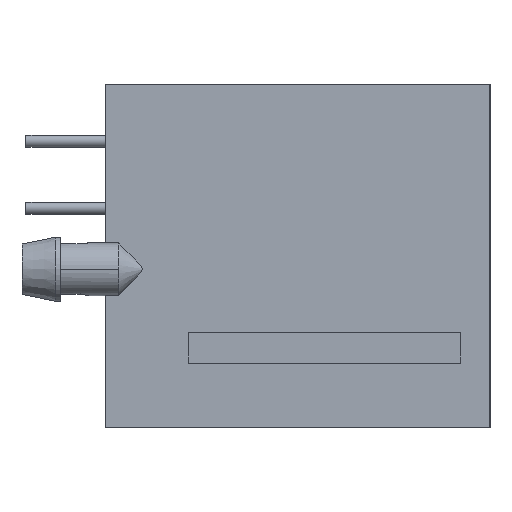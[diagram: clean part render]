
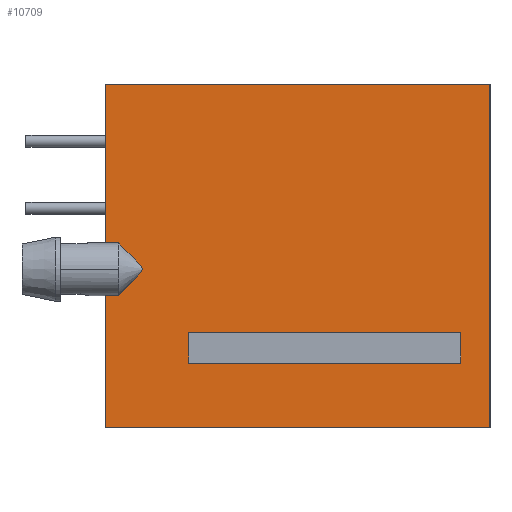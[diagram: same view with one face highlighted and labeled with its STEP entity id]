
A CAD part, left-side view. The second image highlights one B-rep face of the part: STEP entity #10709.
In plain terms, the highlighted planar face has unit normal (-1, 0, 0).
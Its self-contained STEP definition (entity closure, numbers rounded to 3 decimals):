
#3613=DIRECTION('',(0.,0.,1.));
#3614=VECTOR('',#3613,6.005);
#3615=CARTESIAN_POINT('',(-11.6,7.275,0.495));
#3616=LINE('',#3615,#3614);
#3617=DIRECTION('',(0.,0.,-1.));
#3618=VECTOR('',#3617,13.);
#3619=CARTESIAN_POINT('',(-11.6,-7.275,6.5));
#3620=LINE('',#3619,#3618);
#3621=DIRECTION('',(0.,1.,0.));
#3622=VECTOR('',#3621,14.55);
#3623=CARTESIAN_POINT('',(-11.6,-7.275,-6.5));
#3624=LINE('',#3623,#3622);
#3638=DIRECTION('',(0.,0.,-1.));
#3639=VECTOR('',#3638,5.005);
#3640=CARTESIAN_POINT('',(-11.6,7.275,-1.495));
#3641=LINE('',#3640,#3639);
#3642=DIRECTION('',(0.,1.,0.));
#3643=VECTOR('',#3642,0.5);
#3644=CARTESIAN_POINT('',(-11.6,6.775,-1.495));
#3645=LINE('',#3644,#3643);
#3646=DIRECTION('',(0.,-1.,0.));
#3647=VECTOR('',#3646,0.5);
#3648=CARTESIAN_POINT('',(-11.6,7.275,0.495));
#3649=LINE('',#3648,#3647);
#3668=CARTESIAN_POINT('',(-11.6,6.775,0.495));
#3669=CARTESIAN_POINT('',(-11.6,6.741,0.461));
#3670=CARTESIAN_POINT('',(-11.6,6.677,0.396));
#3671=CARTESIAN_POINT('',(-11.6,6.587,0.306));
#3672=CARTESIAN_POINT('',(-11.6,6.504,0.222));
#3673=CARTESIAN_POINT('',(-11.6,6.428,0.145));
#3674=CARTESIAN_POINT('',(-11.6,6.358,0.074));
#3675=CARTESIAN_POINT('',(-11.6,6.293,0.009));
#3676=CARTESIAN_POINT('',(-11.6,6.234,-0.052));
#3677=CARTESIAN_POINT('',(-11.6,6.181,-0.107));
#3678=CARTESIAN_POINT('',(-11.6,6.132,-0.157));
#3679=CARTESIAN_POINT('',(-11.6,6.088,
-0.204));
#3680=CARTESIAN_POINT('',(-11.6,6.048,
-0.246));
#3681=CARTESIAN_POINT('',(-11.6,6.013,
-0.284));
#3682=CARTESIAN_POINT('',(-11.6,5.982,
-0.318));
#3683=CARTESIAN_POINT('',(-11.6,5.956,
-0.349));
#3684=CARTESIAN_POINT('',(-11.6,5.933,
-0.377));
#3685=CARTESIAN_POINT('',(-11.6,5.914,
-0.403));
#3686=CARTESIAN_POINT('',(-11.6,5.898,
-0.427));
#3687=CARTESIAN_POINT('',(-11.6,5.885,
-0.452));
#3688=CARTESIAN_POINT('',(-11.6,5.877,
-0.477));
#3689=CARTESIAN_POINT('',(-11.6,5.875,
-0.493));
#3690=CARTESIAN_POINT('',(-11.6,5.875,
-0.5));
#3692=CARTESIAN_POINT('',(-11.6,5.875,
-0.5));
#3693=CARTESIAN_POINT('',(-11.6,5.875,
-0.507));
#3694=CARTESIAN_POINT('',(-11.6,5.877,
-0.522));
#3695=CARTESIAN_POINT('',(-11.6,5.885,
-0.547));
#3696=CARTESIAN_POINT('',(-11.6,5.898,
-0.573));
#3697=CARTESIAN_POINT('',(-11.6,5.914,
-0.598));
#3698=CARTESIAN_POINT('',(-11.6,5.933,
-0.623));
#3699=CARTESIAN_POINT('',(-11.6,5.956,
-0.651));
#3700=CARTESIAN_POINT('',(-11.6,5.982,
-0.682));
#3701=CARTESIAN_POINT('',(-11.6,6.013,
-0.716));
#3702=CARTESIAN_POINT('',(-11.6,6.048,
-0.754));
#3703=CARTESIAN_POINT('',(-11.6,6.087,
-0.796));
#3704=CARTESIAN_POINT('',(-11.6,6.131,-0.842));
#3705=CARTESIAN_POINT('',(-11.6,6.18,-0.893));
#3706=CARTESIAN_POINT('',(-11.6,6.234,-0.948));
#3707=CARTESIAN_POINT('',(-11.6,6.293,-1.008));
#3708=CARTESIAN_POINT('',(-11.6,6.357,-1.074));
#3709=CARTESIAN_POINT('',(-11.6,6.428,-1.145));
#3710=CARTESIAN_POINT('',(-11.6,6.504,-1.222));
#3711=CARTESIAN_POINT('',(-11.6,6.587,-1.306));
#3712=CARTESIAN_POINT('',(-11.6,6.677,-1.396));
#3713=CARTESIAN_POINT('',(-11.6,6.741,-1.461));
#3714=CARTESIAN_POINT('',(-11.6,6.775,-1.495));
#3928=DIRECTION('',(0.,1.,0.));
#3929=VECTOR('',#3928,14.55);
#3930=CARTESIAN_POINT('',(-11.6,-7.275,6.5));
#3931=LINE('',#3930,#3929);
#8028=DIRECTION('',(0.,0.,-1.));
#8029=VECTOR('',#8028,1.15);
#8030=CARTESIAN_POINT('',(-11.6,-6.175,-2.9));
#8031=LINE('',#8030,#8029);
#8032=DIRECTION('',(0.,1.,0.));
#8033=VECTOR('',#8032,10.3);
#8034=CARTESIAN_POINT('',(-11.6,-6.175,-4.05));
#8035=LINE('',#8034,#8033);
#8040=DIRECTION('',(0.,0.,1.));
#8041=VECTOR('',#8040,1.15);
#8042=CARTESIAN_POINT('',(-11.6,4.125,-4.05));
#8043=LINE('',#8042,#8041);
#8048=DIRECTION('',(0.,-1.,0.));
#8049=VECTOR('',#8048,10.3);
#8050=CARTESIAN_POINT('',(-11.6,4.125,-2.9));
#8051=LINE('',#8050,#8049);
#8680=CARTESIAN_POINT('',(-11.6,-7.275,-6.5));
#8681=CARTESIAN_POINT('',(-11.6,7.275,-6.5));
#8682=VERTEX_POINT('',#8680);
#8683=VERTEX_POINT('',#8681);
#8744=CARTESIAN_POINT('',(-11.6,7.275,0.495));
#8745=CARTESIAN_POINT('',(-11.6,7.275,6.5));
#8746=VERTEX_POINT('',#8744);
#8747=VERTEX_POINT('',#8745);
#8768=CARTESIAN_POINT('',(-11.6,-7.275,6.5));
#8769=VERTEX_POINT('',#8768);
#8770=VERTEX_POINT('',#3692);
#8771=VERTEX_POINT('',#3714);
#8772=CARTESIAN_POINT('',(-11.6,-6.175,-2.9));
#8773=CARTESIAN_POINT('',(-11.6,-6.175,-4.05));
#8774=VERTEX_POINT('',#8772);
#8775=VERTEX_POINT('',#8773);
#8776=CARTESIAN_POINT('',(-11.6,4.125,-4.05));
#8777=VERTEX_POINT('',#8776);
#8778=CARTESIAN_POINT('',(-11.6,7.275,-1.495));
#8779=VERTEX_POINT('',#8778);
#8794=CARTESIAN_POINT('',(-11.6,6.775,0.495));
#8795=VERTEX_POINT('',#8794);
#9889=CARTESIAN_POINT('',(-11.6,4.125,-2.9));
#9890=VERTEX_POINT('',#9889);
#10677=CARTESIAN_POINT('',(-11.6,0.,0.));
#10678=DIRECTION('',(1.,0.,0.));
#10679=DIRECTION('',(0.,-1.,0.));
#10680=AXIS2_PLACEMENT_3D('',#10677,#10678,#10679);
#10681=PLANE('',#10680);
#10683=ORIENTED_EDGE('',*,*,#10682,.F.);
#10685=ORIENTED_EDGE('',*,*,#10684,.F.);
#10687=ORIENTED_EDGE('',*,*,#10686,.F.);
#10689=ORIENTED_EDGE('',*,*,#10688,.F.);
#10691=ORIENTED_EDGE('',*,*,#10690,.F.);
#10692=ORIENTED_EDGE('',*,*,#10565,.T.);
#10694=ORIENTED_EDGE('',*,*,#10693,.F.);
#10695=ORIENTED_EDGE('',*,*,#10669,.T.);
#10696=ORIENTED_EDGE('',*,*,#10407,.T.);
#10697=EDGE_LOOP('',(#10683,#10685,#10687,#10689,#10691,#10692,#10694,#10695,
#10696));
#10698=FACE_OUTER_BOUND('',#10697,.F.);
#10700=ORIENTED_EDGE('',*,*,#10699,.F.);
#10702=ORIENTED_EDGE('',*,*,#10701,.F.);
#10704=ORIENTED_EDGE('',*,*,#10703,.F.);
#10706=ORIENTED_EDGE('',*,*,#10705,.F.);
#10707=EDGE_LOOP('',(#10700,#10702,#10704,#10706));
#10708=FACE_BOUND('',#10707,.F.);
#10709=ADVANCED_FACE('',(#10698,#10708),#10681,.F.);
#3691=B_SPLINE_CURVE_WITH_KNOTS('',3,(#3668,#3669,#3670,#3671,#3672,#3673,#3674,
#3675,#3676,#3677,#3678,#3679,#3680,#3681,#3682,#3683,#3684,#3685,#3686,#3687,
#3688,#3689,#3690),.UNSPECIFIED.,.F.,.F.,(4,1,1,1,1,1,1,1,1,1,1,1,1,1,1,1,1,1,1,
1,4),(0.,0.05,0.1,0.15,0.2,0.25,0.3,0.35,0.4,0.45,0.5,
0.55,0.6,0.65,0.7,0.75,0.8,0.85,0.9,0.95,1.),.UNSPECIFIED.);
#3715=B_SPLINE_CURVE_WITH_KNOTS('',3,(#3692,#3693,#3694,#3695,#3696,#3697,#3698,
#3699,#3700,#3701,#3702,#3703,#3704,#3705,#3706,#3707,#3708,#3709,#3710,#3711,
#3712,#3713,#3714),.UNSPECIFIED.,.F.,.F.,(4,1,1,1,1,1,1,1,1,1,1,1,1,1,1,1,1,1,1,
1,4),(0.,0.05,0.1,0.15,0.2,0.25,0.3,0.35,0.4,0.45,0.5,
0.55,0.6,0.65,0.7,0.75,0.8,0.85,0.9,0.95,1.),.UNSPECIFIED.);
#10407=EDGE_CURVE('',#8682,#8683,#3624,.T.);
#10565=EDGE_CURVE('',#8746,#8747,#3616,.T.);
#10669=EDGE_CURVE('',#8769,#8682,#3620,.T.);
#10682=EDGE_CURVE('',#8779,#8683,#3641,.T.);
#10684=EDGE_CURVE('',#8771,#8779,#3645,.T.);
#10686=EDGE_CURVE('',#8770,#8771,#3715,.T.);
#10688=EDGE_CURVE('',#8795,#8770,#3691,.T.);
#10690=EDGE_CURVE('',#8746,#8795,#3649,.T.);
#10693=EDGE_CURVE('',#8769,#8747,#3931,.T.);
#10699=EDGE_CURVE('',#8774,#8775,#8031,.T.);
#10701=EDGE_CURVE('',#9890,#8774,#8051,.T.);
#10703=EDGE_CURVE('',#8777,#9890,#8043,.T.);
#10705=EDGE_CURVE('',#8775,#8777,#8035,.T.);
